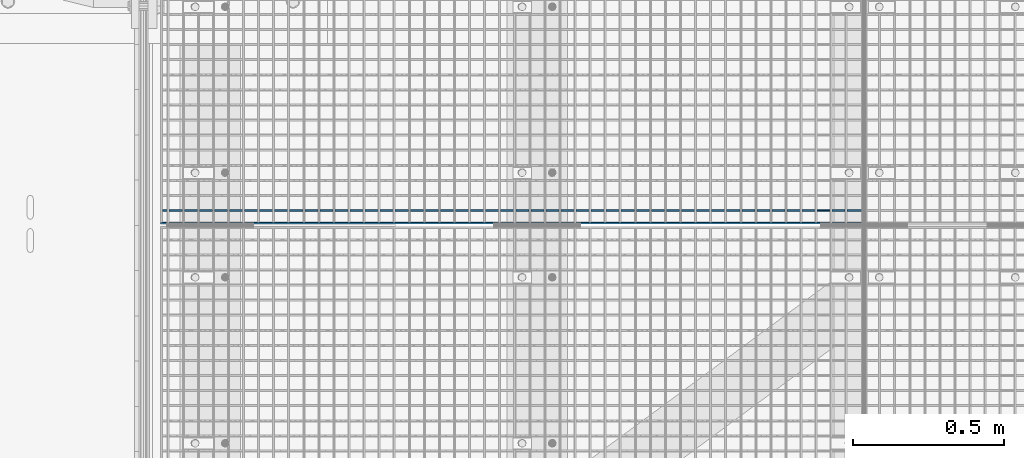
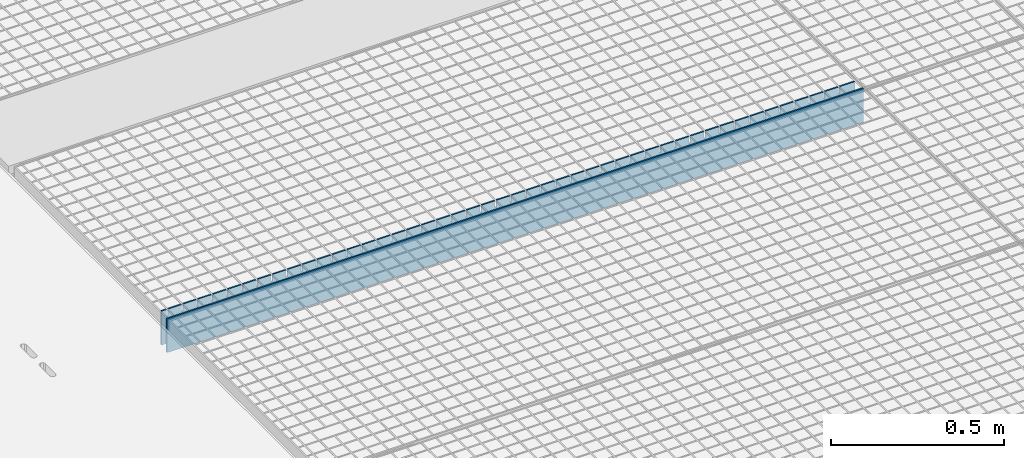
# One storey, part 154 of 1530: 2 beams.
"""IFC2X3 building model written with IfcOpenShell, lengths in millimetres."""

from ifc_helpers import new_model, si_unit, frame, origin_with_axes, place, context, subcontext, project, spatial, faceted_brep, material, type_object, element, save


model = new_model("IFC2X3")

# Units and contexts
model_context = context("Model", 3, precision=1e-05, world=origin_with_axes())
body_context = subcontext(model_context, "Body", "Model", "MODEL_VIEW")
ifc_project = project(units=[si_unit("LENGTHUNIT", "METRE", prefix="MILLI"), si_unit("AREAUNIT", "SQUARE_METRE"), si_unit("VOLUMEUNIT", "CUBIC_METRE"), si_unit("MASSUNIT", "GRAM", prefix="KILO"), si_unit("TIMEUNIT", "SECOND"), si_unit("PLANEANGLEUNIT", "RADIAN"), si_unit("SOLIDANGLEUNIT", "STERADIAN"), si_unit("THERMODYNAMICTEMPERATUREUNIT", "DEGREE_CELSIUS"), si_unit("LUMINOUSINTENSITYUNIT", "LUMEN")], contexts=[model_context])

# Site, building, storey
site_placement = place(None, origin_with_axes())
site = spatial("IfcSite", under=ifc_project, at=site_placement, Name="Brattvåg", CompositionType="ELEMENT")
building_placement = place(site_placement, origin_with_axes())
building = spatial("IfcBuilding", under=site, at=building_placement, Name="Undefined", CompositionType="ELEMENT")
storey_placement = place(building_placement, origin_with_axes())
storey = spatial("IfcBuildingStorey", under=building, at=storey_placement, Name="Undefined", CompositionType="ELEMENT", Elevation=0.0)

# Beams
ifc_material = material(Name="STEEL/S355J2")
beam_type = type_object("IfcBeamType", Name="120*5", PredefinedType="NOTDEFINED")
beam_1_placement = place(storey_placement, frame((2347.01317977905, 1996.99487304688, -59.9998626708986), z_axis=(0.0, 0.0, 1.0), x_axis=(-1.0, 1.99999855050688e-09, 0.0)))
element("IfcBeam", 1, at=beam_1_placement, inside=storey, type_object=beam_type, material=ifc_material, Name="GRATING", context=body_context, shape_type="Brep", body=[
    faceted_brep([(99.4490367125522, -2.50000000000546, 60.0000722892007), (99.4490367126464, -2.50000000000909, 35.0001373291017), (99.4490367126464, 2.50022888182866, 35.0001373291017), (99.4490367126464, 2.5, 60.0), (104.449036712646, -2.50000000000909, 35.0001373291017), (104.449036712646, 2.50022888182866, 35.0001373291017), (104.449036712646, -2.50000000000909, 60.0001373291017), (104.449036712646, 2.5, 60.0), (54.5084370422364, -2.50000000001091, 60.0001373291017), (54.5084370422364, 2.5, 60.0), (54.5084370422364, 2.49999999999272, 35.0001373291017), (54.5084370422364, -2.50000000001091, 35.0001373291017), (49.5084370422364, 2.49999999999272, 35.0001373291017), (49.5084370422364, -2.50000000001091, 35.0001373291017), (49.5084370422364, -2.5, 60.0), (49.5084370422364, 2.5, 60.0), (0.0, 2.5, 60.0), (0.0, -2.5, 60.0), (0.0, -2.5, -60.0), (0.0, 2.5, -60.0), (2319.99865722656, 2.5, -60.0), (2319.99865722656, -2.5, -60.0), (2319.99865722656, -2.5, 60.0), (2319.99865722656, 2.5, 60.0), (2302.24871932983, 2.5, 60.0), (2302.24871932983, -2.50000000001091, 60.0001373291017), (2302.24871932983, 2.49999999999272, 35.0001373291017), (2302.24871932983, -2.50000000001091, 35.0001373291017), (2297.24871932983, 2.49999999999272, 35.0001373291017), (2297.24871932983, -2.50000000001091, 35.0001373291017), (2297.24871932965, -2.50000000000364, 60.0000461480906), (2297.24871932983, 2.5, 60.0), (2252.29859649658, 2.5, 60.0), (2252.29859649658, -2.50000000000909, 60.0001373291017), (2252.29859649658, 2.50022888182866, 35.0001373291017), (2252.29859649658, -2.50000000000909, 35.0001373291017), (2247.29859649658, 2.50022888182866, 35.0001373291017), (2247.29859649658, -2.50000000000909, 35.0001373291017), (2247.29859649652, -2.50000000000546, 60.0000848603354), (2247.29859649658, 2.5, 60.0), (2202.34847366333, 2.5, 60.0), (2202.34847366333, -2.50000000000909, 60.0001373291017), (2202.34847366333, 2.50022888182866, 35.0001373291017), (2202.34847366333, -2.50000000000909, 35.0001373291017), (2197.34847366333, 2.50022888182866, 35.0001373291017), (2197.34847366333, -2.50000000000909, 35.0001373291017), (2197.34847366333, -2.5, 60.0), (2197.34847366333, 2.5, 60.0), (2152.39882766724, 2.5, 60.0), (2152.39882766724, -2.50000000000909, 60.0001373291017), (2152.39882766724, 2.50022888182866, 35.0001373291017), (2152.39882766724, -2.50000000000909, 35.0001373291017), (2147.39882766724, 2.50022888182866, 35.0001373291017), (2147.39882766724, -2.50000000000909, 35.0001373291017), (2147.39882766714, -2.50000000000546, 60.0000722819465), (2147.39882766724, 2.5, 60.0), (2102.44870483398, 2.5, 60.0), (2102.44870483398, -2.50000000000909, 60.0001373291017), (2102.44870483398, 2.50022888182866, 35.0001373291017), (2102.44870483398, -2.50000000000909, 35.0001373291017), (2097.44870483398, 2.50022888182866, 35.0001373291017), (2097.44870483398, -2.50000000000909, 35.0001373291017), (2097.44870483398, -2.5, 60.0), (2097.44870483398, 2.5, 60.0), (2052.49858200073, 2.5, 60.0), (2052.49858200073, -2.50000000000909, 60.0001373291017), (2052.49858200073, 2.50022888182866, 35.0001373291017), (2052.49858200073, -2.50000000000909, 35.0001373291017), (2047.49858200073, 2.50022888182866, 35.0001373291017), (2047.49858200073, -2.50000000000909, 35.0001373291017), (2047.49858200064, -2.50000000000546, 60.0000722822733), (2047.49858200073, 2.5, 60.0), (2002.54845916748, 2.5, 60.0), (2002.54845916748, -2.50000000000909, 60.0001373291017), (2002.54845916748, 2.50022888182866, 35.0001373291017), (2002.54845916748, -2.50000000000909, 35.0001373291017), (1997.54845916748, 2.50022888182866, 35.0001373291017), (1997.54845916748, -2.50000000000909, 35.0001373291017), (1997.54845916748, -2.5, 60.0), (1997.54845916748, 2.5, 60.0), (1952.59881317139, 2.5, 60.0), (1952.59881317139, -2.50000000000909, 60.0001373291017), (1952.59881317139, 2.50022888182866, 35.0001373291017), (1952.59881317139, -2.50000000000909, 35.0001373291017), (1947.59881317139, 2.50022888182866, 35.0001373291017), (1947.59881317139, -2.50000000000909, 35.0001373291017), (1947.59881317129, -2.50000000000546, 60.0000722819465), (1947.59881317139, 2.5, 60.0), (1902.64869033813, 2.5, 60.0), (1902.64869033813, -2.50000000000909, 60.0001373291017), (1902.64869033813, 2.50022888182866, 35.0001373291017), (1902.64869033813, -2.50000000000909, 35.0001373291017), (1897.64869033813, 2.50022888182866, 35.0001373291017), (1897.64869033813, -2.50000000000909, 35.0001373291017), (1897.64869033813, -2.5, 60.0), (1897.64869033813, 2.5, 60.0), (1852.69856750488, 2.5, 60.0), (1852.69856750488, -2.50000000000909, 60.0001373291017), (1852.69856750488, 2.50022888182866, 35.0001373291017), (1852.69856750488, -2.50000000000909, 35.0001373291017), (1847.69856750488, 2.50022888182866, 35.0001373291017), (1847.69856750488, -2.50000000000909, 35.0001373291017), (1847.69856750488, -2.5, 60.0), (1847.69856750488, 2.5, 60.0), (1802.74892150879, 2.5, 60.0), (1802.74892150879, -2.50000000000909, 60.0001373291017), (1802.74892150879, 2.50022888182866, 35.0001373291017), (1802.74892150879, -2.50000000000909, 35.0001373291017), (1797.74892150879, 2.50022888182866, 35.0001373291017), (1797.74892150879, -2.50000000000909, 35.0001373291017), (1797.74892150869, -2.50000000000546, 60.0000722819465), (1797.74892150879, 2.5, 60.0), (1752.79879867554, 2.5, 60.0), (1752.79879867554, -2.50000000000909, 60.0001373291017), (1752.79879867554, 2.50022888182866, 35.0001373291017), (1752.79879867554, -2.50000000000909, 35.0001373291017), (1747.79879867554, 2.50022888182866, 35.0001373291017), (1747.79879867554, -2.50000000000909, 35.0001373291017), (1747.79879867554, -2.5, 60.0), (1747.79879867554, 2.5, 60.0), (1702.84867584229, 2.5, 60.0), (1702.84867584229, -2.50000000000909, 60.0001373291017), (1702.84867584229, 2.50022888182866, 35.0001373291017), (1702.84867584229, -2.50000000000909, 35.0001373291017), (1697.84867584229, 2.50022888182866, 35.0001373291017), (1697.84867584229, -2.50000000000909, 35.0001373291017), (1697.84867584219, -2.50000000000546, 60.0000722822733), (1697.84867584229, 2.5, 60.0), (1652.89855300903, 2.5, 60.0), (1652.89855300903, -2.50000000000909, 60.0001373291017), (1652.89855300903, 2.50022888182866, 35.0001373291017), (1652.89855300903, -2.50000000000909, 35.0001373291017), (1647.89855300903, 2.50022888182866, 35.0001373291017), (1647.89855300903, -2.50000000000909, 35.0001373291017), (1647.89855300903, -2.5, 60.0), (1647.89855300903, 2.5, 60.0), (1602.94890701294, 2.5, 60.0), (1602.94890701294, -2.50000000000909, 60.0001373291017), (1602.94890701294, 2.50022888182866, 35.0001373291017), (1602.94890701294, -2.50000000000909, 35.0001373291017), (1597.94890701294, 2.50022888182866, 35.0001373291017), (1597.94890701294, -2.50000000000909, 35.0001373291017), (1597.94890701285, -2.50000000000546, 60.0000722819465), (1597.94890701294, 2.5, 60.0), (1552.99878417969, 2.5, 60.0), (1552.99878417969, -2.50000000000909, 60.0001373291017), (1552.99878417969, 2.50022888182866, 35.0001373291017), (1552.99878417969, -2.50000000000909, 35.0001373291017), (1547.99878417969, 2.50022888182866, 35.0001373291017), (1547.99878417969, -2.50000000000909, 35.0001373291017), (1547.99878417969, -2.5, 60.0), (1547.99878417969, 2.5, 60.0), (1503.04866134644, 2.5, 60.0), (1503.04866134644, -2.50000000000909, 60.0001373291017), (1503.04866134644, 2.50022888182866, 35.0001373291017), (1503.04866134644, -2.50000000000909, 35.0001373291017), (1498.04866134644, 2.50022888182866, 35.0001373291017), (1498.04866134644, -2.50000000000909, 35.0001373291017), (1498.04866134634, -2.50000000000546, 60.0000722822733), (1498.04866134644, 2.5, 60.0), (1453.09853851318, 2.5, 60.0), (1453.09853851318, -2.50000000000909, 60.0001373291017), (1453.09853851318, 2.50022888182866, 35.0001373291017), (1453.09853851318, -2.50000000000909, 35.0001373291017), (1448.09853851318, 2.50022888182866, 35.0001373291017), (1448.09853851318, -2.50000000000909, 35.0001373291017), (1448.09853851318, -2.5, 60.0), (1448.09853851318, 2.5, 60.0), (1403.14889251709, 2.5, 60.0), (1403.14889251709, -2.50000000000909, 60.0001373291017), (1403.14889251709, 2.50022888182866, 35.0001373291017), (1403.14889251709, -2.50000000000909, 35.0001373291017), (1398.14889251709, 2.50022888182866, 35.0001373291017), (1398.14889251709, -2.50000000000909, 35.0001373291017), (1398.148892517, -2.50000000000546, 60.0000722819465), (1398.14889251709, 2.5, 60.0), (1353.19876968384, 2.5, 60.0), (1353.19876968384, -2.50000000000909, 60.0001373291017), (1353.19876968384, 2.50022888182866, 35.0001373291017), (1353.19876968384, -2.50000000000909, 35.0001373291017), (1348.19876968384, 2.50022888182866, 35.0001373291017), (1348.19876968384, -2.50000000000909, 35.0001373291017), (1348.19876968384, -2.5, 60.0), (1348.19876968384, 2.5, 60.0), (1303.24864685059, 2.5, 60.0), (1303.24864685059, -2.50000000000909, 60.0001373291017), (1303.24864685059, 2.50022888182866, 35.0001373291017), (1303.24864685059, -2.50000000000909, 35.0001373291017), (1298.24864685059, 2.50022888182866, 35.0001373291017), (1298.24864685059, -2.50000000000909, 35.0001373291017), (1298.24864685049, -2.50000000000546, 60.0000722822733), (1298.24864685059, 2.5, 60.0), (1253.29852401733, 2.5, 60.0), (1253.29852401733, -2.50000000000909, 60.0001373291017), (1253.29852401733, 2.50022888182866, 35.0001373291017), (1253.29852401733, -2.50000000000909, 35.0001373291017), (1248.29852401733, 2.50022888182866, 35.0001373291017), (1248.29852401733, -2.50000000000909, 35.0001373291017), (1248.29852401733, -2.5, 60.0), (1248.29852401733, 2.5, 60.0), (1203.34887802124, 2.5, 60.0), (1203.34887802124, -2.50000000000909, 60.0001373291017), (1203.34887802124, 2.50022888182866, 35.0001373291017), (1203.34887802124, -2.50000000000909, 35.0001373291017), (1198.34887802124, 2.50022888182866, 35.0001373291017), (1198.34887802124, -2.50000000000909, 35.0001373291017), (1198.34887802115, -2.50000000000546, 60.0000722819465), (1198.34887802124, 2.5, 60.0), (1153.39875518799, 2.5, 60.0), (1153.39875518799, -2.50000000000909, 60.0001373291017), (1153.39875518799, 2.50022888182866, 35.0001373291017), (1153.39875518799, -2.50000000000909, 35.0001373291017), (1148.39875518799, 2.50022888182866, 35.0001373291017), (1148.39875518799, -2.50000000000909, 35.0001373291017), (1148.39875518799, -2.5, 60.0), (1148.39875518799, 2.5, 60.0), (1103.44863235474, 2.5, 60.0), (1103.44863235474, -2.50000000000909, 60.0001373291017), (1103.44863235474, 2.50022888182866, 35.0001373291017), (1103.44863235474, -2.50000000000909, 35.0001373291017), (1098.44863235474, 2.50022888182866, 35.0001373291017), (1098.44863235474, -2.50000000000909, 35.0001373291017), (1098.44863235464, -2.50000000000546, 60.0000722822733), (1098.44863235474, 2.5, 60.0), (1053.49850952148, 2.5, 60.0), (1053.49850952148, -2.50000000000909, 60.0001373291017), (1053.49850952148, 2.50022888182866, 35.0001373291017), (1053.49850952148, -2.50000000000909, 35.0001373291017), (1048.49850952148, 2.50022888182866, 35.0001373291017), (1048.49850952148, -2.50000000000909, 35.0001373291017), (1048.49850952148, -2.5, 60.0), (1048.49850952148, 2.5, 60.0), (1003.54886352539, 2.5, 60.0), (1003.54886352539, -2.50000000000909, 60.0001373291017), (1003.54886352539, 2.50022888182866, 35.0001373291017), (1003.54886352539, -2.50000000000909, 35.0001373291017), (998.548863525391, 2.50022888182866, 35.0001373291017), (998.548863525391, -2.50000000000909, 35.0001373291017), (998.548863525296, -2.50000000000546, 60.0000722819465), (998.548863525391, 2.5, 60.0), (953.598740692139, 2.5, 60.0), (953.598740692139, -2.50000000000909, 60.0001373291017), (953.598740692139, 2.50022888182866, 35.0001373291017), (953.598740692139, -2.50000000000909, 35.0001373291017), (948.598740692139, 2.50022888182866, 35.0001373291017), (948.598740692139, -2.50000000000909, 35.0001373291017), (948.598740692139, -2.5, 60.0), (948.598740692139, 2.5, 60.0), (903.648617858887, 2.5, 60.0), (903.648617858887, -2.50000000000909, 60.0001373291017), (903.648617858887, 2.50022888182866, 35.0001373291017), (903.648617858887, -2.50000000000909, 35.0001373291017), (898.648617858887, 2.50022888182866, 35.0001373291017), (898.648617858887, -2.50000000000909, 35.0001373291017), (898.648617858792, -2.50000000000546, 60.0000722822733), (898.648617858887, 2.5, 60.0), (853.698495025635, 2.5, 60.0), (853.698495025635, -2.50000000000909, 60.0001373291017), (853.698495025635, 2.50022888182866, 35.0001373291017), (853.698495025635, -2.50000000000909, 35.0001373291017), (848.698495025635, 2.50022888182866, 35.0001373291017), (848.698495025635, -2.50000000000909, 35.0001373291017), (848.698495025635, -2.5, 60.0), (848.698495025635, 2.5, 60.0), (803.748849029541, 2.5, 60.0), (803.748849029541, -2.50000000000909, 60.0001373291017), (803.748849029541, 2.50022888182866, 35.0001373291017), (803.748849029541, -2.50000000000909, 35.0001373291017), (798.748849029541, 2.50022888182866, 35.0001373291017), (798.748849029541, -2.50000000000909, 35.0001373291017), (798.748849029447, -2.50000000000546, 60.0000722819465), (798.748849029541, 2.5, 60.0), (753.798726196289, 2.5, 60.0), (753.798726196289, -2.50000000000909, 60.0001373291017), (753.798726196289, 2.50022888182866, 35.0001373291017), (753.798726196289, -2.50000000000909, 35.0001373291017), (748.798726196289, 2.50022888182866, 35.0001373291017), (748.798726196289, -2.50000000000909, 35.0001373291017), (748.798726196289, -2.5, 60.0), (748.798726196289, 2.5, 60.0), (703.848603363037, 2.5, 60.0), (703.848603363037, -2.50000000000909, 60.0001373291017), (703.848603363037, 2.50022888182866, 35.0001373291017), (703.848603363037, -2.50000000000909, 35.0001373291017), (698.848603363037, 2.50022888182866, 35.0001373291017), (698.848603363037, -2.50000000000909, 35.0001373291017), (698.848603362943, -2.50000000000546, 60.0000722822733), (698.848603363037, 2.5, 60.0), (653.898480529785, 2.5, 60.0), (653.898480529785, -2.50000000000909, 60.0001373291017), (653.898480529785, 2.50022888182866, 35.0001373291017), (653.898480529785, -2.50000000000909, 35.0001373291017), (648.898480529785, 2.50022888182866, 35.0001373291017), (648.898480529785, -2.50000000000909, 35.0001373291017), (648.898480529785, -2.5, 60.0), (648.898480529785, 2.5, 60.0), (603.948834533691, 2.5, 60.0), (603.948834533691, -2.50000000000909, 60.0001373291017), (603.948834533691, 2.50022888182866, 35.0001373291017), (603.948834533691, -2.50000000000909, 35.0001373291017), (598.948834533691, 2.50022888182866, 35.0001373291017), (598.948834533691, -2.50000000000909, 35.0001373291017), (598.948834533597, -2.50000000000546, 60.0000722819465), (598.948834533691, 2.5, 60.0), (553.998711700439, 2.5, 60.0), (553.998711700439, -2.50000000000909, 60.0001373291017), (553.998711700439, 2.50022888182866, 35.0001373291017), (553.998711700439, -2.50000000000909, 35.0001373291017), (548.998711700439, 2.50022888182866, 35.0001373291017), (548.998711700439, -2.50000000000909, 35.0001373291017), (548.998711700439, -2.5, 60.0), (548.998711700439, 2.5, 60.0), (504.048588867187, 2.5, 60.0), (504.048588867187, -2.50000000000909, 60.0001373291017), (504.048588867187, 2.50022888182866, 35.0001373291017), (504.048588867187, -2.50000000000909, 35.0001373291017), (499.048588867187, 2.50022888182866, 35.0001373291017), (499.048588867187, -2.50000000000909, 35.0001373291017), (499.048588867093, -2.50000000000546, 60.0000722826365), (499.048588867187, 2.5, 60.0), (454.098942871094, 2.5, 60.0), (454.098942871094, -2.50000000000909, 60.0001373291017), (454.098942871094, 2.50022888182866, 35.0001373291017), (454.098942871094, -2.50000000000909, 35.0001373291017), (449.098942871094, 2.50022888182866, 35.0001373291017), (449.098942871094, -2.50000000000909, 35.0001373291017), (449.098942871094, -2.5, 60.0), (449.098942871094, 2.5, 60.0), (404.148820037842, 2.5, 60.0), (404.148820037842, -2.50000000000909, 60.0001373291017), (404.148820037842, 2.50022888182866, 35.0001373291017), (404.148820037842, -2.50000000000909, 35.0001373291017), (399.148820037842, 2.50022888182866, 35.0001373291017), (399.148820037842, -2.50000000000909, 35.0001373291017), (399.148820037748, -2.50000000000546, 60.0000722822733), (399.148820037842, 2.5, 60.0), (354.19869720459, 2.5, 60.0), (354.19869720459, -2.50000000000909, 60.0001373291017), (354.19869720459, 2.50022888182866, 35.0001373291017), (354.19869720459, -2.50000000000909, 35.0001373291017), (349.19869720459, 2.50022888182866, 35.0001373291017), (349.19869720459, -2.50000000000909, 35.0001373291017), (349.19869720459, -2.5, 60.0), (349.19869720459, 2.5, 60.0), (304.248574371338, 2.5, 60.0), (304.248574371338, -2.50000000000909, 60.0001373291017), (304.248574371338, 2.50022888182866, 35.0001373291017), (304.248574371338, -2.50000000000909, 35.0001373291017), (299.248574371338, 2.50022888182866, 35.0001373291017), (299.248574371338, -2.50000000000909, 35.0001373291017), (299.248574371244, -2.50000000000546, 60.0000722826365), (299.248574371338, 2.5, 60.0), (254.298928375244, 2.5, 60.0), (254.298928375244, -2.50000000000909, 60.0001373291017), (254.298928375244, 2.50022888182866, 35.0001373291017), (254.298928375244, -2.50000000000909, 35.0001373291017), (249.298928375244, 2.50022888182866, 35.0001373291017), (249.298928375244, -2.50000000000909, 35.0001373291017), (249.298928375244, -2.5, 60.0), (249.298928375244, 2.5, 60.0), (204.348328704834, 2.5, 60.0), (204.348328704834, -2.50000000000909, 60.0001373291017), (204.348328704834, 2.50022888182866, 35.0001373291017), (204.348328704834, -2.50000000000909, 35.0001373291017), (199.348328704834, 2.50022888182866, 35.0001373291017), (199.348328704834, -2.50000000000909, 35.0001373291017), (199.34832870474, -2.50000000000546, 60.0000722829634), (199.348328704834, 2.5, 60.0), (154.39868270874, 2.5, 60.0), (154.39868270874, -2.50000000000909, 60.0001373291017), (154.39868270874, 2.50022888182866, 35.0001373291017), (154.39868270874, -2.50000000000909, 35.0001373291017), (149.39868270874, 2.50022888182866, 35.0001373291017), (149.39868270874, -2.50000000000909, 35.0001373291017), (149.39868270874, -2.5, 60.0), (149.39868270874, 2.5, 60.0)], [[[0, 1, 2, 3]], [[4, 5, 2, 1]], [[6, 7, 5, 4]], [[8, 9, 10, 11]], [[11, 10, 12, 13]], [[14, 13, 12, 15]], [[16, 17, 14, 15]], [[18, 17, 16, 19]], [[18, 19, 20, 21]], [[22, 21, 20, 23]], [[22, 23, 24, 25]], [[25, 24, 26, 27]], [[27, 26, 28, 29]], [[30, 29, 28, 31]], [[32, 33, 30, 31]], [[33, 32, 34, 35]], [[35, 34, 36, 37]], [[38, 37, 36, 39]], [[40, 41, 38, 39]], [[41, 40, 42, 43]], [[43, 42, 44, 45]], [[46, 45, 44, 47]], [[46, 47, 48, 49]], [[49, 48, 50, 51]], [[51, 50, 52, 53]], [[54, 53, 52, 55]], [[56, 57, 54, 55]], [[57, 56, 58, 59]], [[59, 58, 60, 61]], [[62, 61, 60, 63]], [[62, 63, 64, 65]], [[65, 64, 66, 67]], [[67, 66, 68, 69]], [[70, 69, 68, 71]], [[72, 73, 70, 71]], [[73, 72, 74, 75]], [[75, 74, 76, 77]], [[78, 77, 76, 79]], [[78, 79, 80, 81]], [[81, 80, 82, 83]], [[83, 82, 84, 85]], [[86, 85, 84, 87]], [[88, 89, 86, 87]], [[89, 88, 90, 91]], [[91, 90, 92, 93]], [[94, 93, 92, 95]], [[94, 95, 96, 97]], [[97, 96, 98, 99]], [[99, 98, 100, 101]], [[102, 101, 100, 103]], [[102, 103, 104, 105]], [[105, 104, 106, 107]], [[107, 106, 108, 109]], [[110, 109, 108, 111]], [[112, 113, 110, 111]], [[113, 112, 114, 115]], [[115, 114, 116, 117]], [[118, 117, 116, 119]], [[118, 119, 120, 121]], [[121, 120, 122, 123]], [[123, 122, 124, 125]], [[126, 125, 124, 127]], [[128, 129, 126, 127]], [[129, 128, 130, 131]], [[131, 130, 132, 133]], [[134, 133, 132, 135]], [[134, 135, 136, 137]], [[137, 136, 138, 139]], [[139, 138, 140, 141]], [[142, 141, 140, 143]], [[144, 145, 142, 143]], [[145, 144, 146, 147]], [[147, 146, 148, 149]], [[150, 149, 148, 151]], [[150, 151, 152, 153]], [[153, 152, 154, 155]], [[155, 154, 156, 157]], [[158, 157, 156, 159]], [[160, 161, 158, 159]], [[161, 160, 162, 163]], [[163, 162, 164, 165]], [[166, 165, 164, 167]], [[166, 167, 168, 169]], [[169, 168, 170, 171]], [[171, 170, 172, 173]], [[174, 173, 172, 175]], [[176, 177, 174, 175]], [[177, 176, 178, 179]], [[179, 178, 180, 181]], [[182, 181, 180, 183]], [[182, 183, 184, 185]], [[185, 184, 186, 187]], [[187, 186, 188, 189]], [[190, 189, 188, 191]], [[192, 193, 190, 191]], [[193, 192, 194, 195]], [[195, 194, 196, 197]], [[198, 197, 196, 199]], [[198, 199, 200, 201]], [[201, 200, 202, 203]], [[203, 202, 204, 205]], [[206, 205, 204, 207]], [[208, 209, 206, 207]], [[209, 208, 210, 211]], [[211, 210, 212, 213]], [[214, 213, 212, 215]], [[214, 215, 216, 217]], [[217, 216, 218, 219]], [[219, 218, 220, 221]], [[222, 221, 220, 223]], [[224, 225, 222, 223]], [[225, 224, 226, 227]], [[227, 226, 228, 229]], [[230, 229, 228, 231]], [[230, 231, 232, 233]], [[233, 232, 234, 235]], [[235, 234, 236, 237]], [[238, 237, 236, 239]], [[240, 241, 238, 239]], [[241, 240, 242, 243]], [[243, 242, 244, 245]], [[246, 245, 244, 247]], [[246, 247, 248, 249]], [[249, 248, 250, 251]], [[251, 250, 252, 253]], [[254, 253, 252, 255]], [[256, 257, 254, 255]], [[257, 256, 258, 259]], [[259, 258, 260, 261]], [[262, 261, 260, 263]], [[262, 263, 264, 265]], [[265, 264, 266, 267]], [[267, 266, 268, 269]], [[270, 269, 268, 271]], [[272, 273, 270, 271]], [[273, 272, 274, 275]], [[275, 274, 276, 277]], [[278, 277, 276, 279]], [[278, 279, 280, 281]], [[281, 280, 282, 283]], [[283, 282, 284, 285]], [[286, 285, 284, 287]], [[288, 289, 286, 287]], [[289, 288, 290, 291]], [[291, 290, 292, 293]], [[294, 293, 292, 295]], [[294, 295, 296, 297]], [[297, 296, 298, 299]], [[299, 298, 300, 301]], [[302, 301, 300, 303]], [[304, 305, 302, 303]], [[305, 304, 306, 307]], [[307, 306, 308, 309]], [[310, 309, 308, 311]], [[310, 311, 312, 313]], [[313, 312, 314, 315]], [[315, 314, 316, 317]], [[318, 317, 316, 319]], [[320, 321, 318, 319]], [[321, 320, 322, 323]], [[323, 322, 324, 325]], [[326, 325, 324, 327]], [[326, 327, 328, 329]], [[329, 328, 330, 331]], [[331, 330, 332, 333]], [[334, 333, 332, 335]], [[336, 337, 334, 335]], [[337, 336, 338, 339]], [[339, 338, 340, 341]], [[342, 341, 340, 343]], [[342, 343, 344, 345]], [[345, 344, 346, 347]], [[347, 346, 348, 349]], [[350, 349, 348, 351]], [[352, 353, 350, 351]], [[353, 352, 354, 355]], [[355, 354, 356, 357]], [[358, 357, 356, 359]], [[358, 359, 360, 361]], [[361, 360, 362, 363]], [[363, 362, 364, 365]], [[366, 365, 364, 367]], [[368, 369, 366, 367]], [[369, 368, 370, 371]], [[371, 370, 372, 373]], [[374, 373, 372, 375]], [[1, 0, 8, 11, 13, 14, 17, 18, 21, 22, 25, 27, 29, 30, 33, 35, 37, 38, 41, 43, 45, 46, 49, 51, 53, 54, 57, 59, 61, 62, 65, 67, 69, 70, 73, 75, 77, 78, 81, 83, 85, 86, 89, 91, 93, 94, 97, 99, 101, 102, 105, 107, 109, 110, 113, 115, 117, 118, 121, 123, 125, 126, 129, 131, 133, 134, 137, 139, 141, 142, 145, 147, 149, 150, 153, 155, 157, 158, 161, 163, 165, 166, 169, 171, 173, 174, 177, 179, 181, 182, 185, 187, 189, 190, 193, 195, 197, 198, 201, 203, 205, 206, 209, 211, 213, 214, 217, 219, 221, 222, 225, 227, 229, 230, 233, 235, 237, 238, 241, 243, 245, 246, 249, 251, 253, 254, 257, 259, 261, 262, 265, 267, 269, 270, 273, 275, 277, 278, 281, 283, 285, 286, 289, 291, 293, 294, 297, 299, 301, 302, 305, 307, 309, 310, 313, 315, 317, 318, 321, 323, 325, 326, 329, 331, 333, 334, 337, 339, 341, 342, 345, 347, 349, 350, 353, 355, 357, 358, 361, 363, 365, 366, 369, 371, 373, 374, 6, 4]], [[9, 8, 0, 3]], [[375, 372, 370, 368, 367, 364, 362, 360, 359, 356, 354, 352, 351, 348, 346, 344, 343, 340, 338, 336, 335, 332, 330, 328, 327, 324, 322, 320, 319, 316, 314, 312, 311, 308, 306, 304, 303, 300, 298, 296, 295, 292, 290, 288, 287, 284, 282, 280, 279, 276, 274, 272, 271, 268, 266, 264, 263, 260, 258, 256, 255, 252, 250, 248, 247, 244, 242, 240, 239, 236, 234, 232, 231, 228, 226, 224, 223, 220, 218, 216, 215, 212, 210, 208, 207, 204, 202, 200, 199, 196, 194, 192, 191, 188, 186, 184, 183, 180, 178, 176, 175, 172, 170, 168, 167, 164, 162, 160, 159, 156, 154, 152, 151, 148, 146, 144, 143, 140, 138, 136, 135, 132, 130, 128, 127, 124, 122, 120, 119, 116, 114, 112, 111, 108, 106, 104, 103, 100, 98, 96, 95, 92, 90, 88, 87, 84, 82, 80, 79, 76, 74, 72, 71, 68, 66, 64, 63, 60, 58, 56, 55, 52, 50, 48, 47, 44, 42, 40, 39, 36, 34, 32, 31, 28, 26, 24, 23, 20, 19, 16, 15, 12, 10, 9, 3, 2, 5, 7]], [[374, 375, 7, 6]]]),
])
beam_2_placement = place(storey_placement, frame((22.010671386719, 1955.49868774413, -59.9998626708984), z_axis=(0.0, 0.0, 1.0), x_axis=(1.0, 0.0, 0.0)))
element("IfcBeam", 2, at=beam_2_placement, inside=storey, type_object=beam_type, material=ifc_material, Name="GRATING", context=body_context, shape_type="Brep", body=[
    faceted_brep([(0.0, 2.5, -60.0), (0.0, 2.5, 60.0), (2329.99832153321, 2.5, 60.0), (2329.99832153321, 2.5, -60.0), (0.0, -2.5, 60.0), (2329.99832153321, -2.5, 60.0), (0.0, -2.5, -60.0), (2329.99832153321, -2.5, -60.0)], [[[0, 1, 2, 3]], [[1, 4, 5, 2]], [[4, 6, 7, 5]], [[6, 0, 3, 7]], [[5, 7, 3, 2]], [[6, 4, 1, 0]]]),
])

save(model, "model.ifc")
